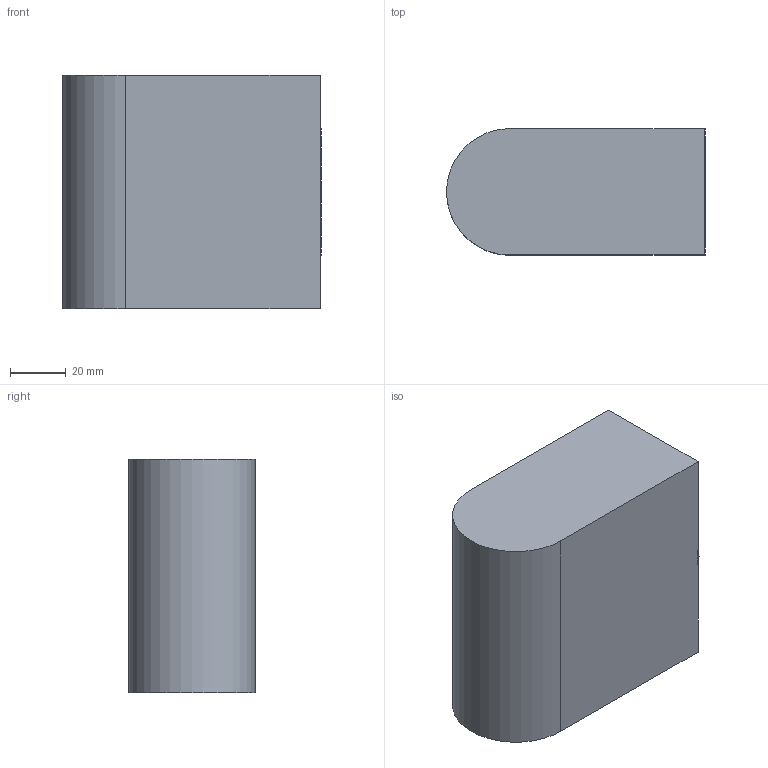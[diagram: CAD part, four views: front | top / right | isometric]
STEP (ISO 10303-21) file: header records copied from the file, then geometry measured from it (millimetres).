
FILE_DESCRIPTION (( 'STEP AP203' ), '1' );
FILE_NAME ('Eslabon4_Default_sldprt.STEP', '2022-03-13T17:40:44', ( '' ), ( '' ), 'SwSTEP 2.0', 'SolidWorks 2020', '' );
FILE_SCHEMA (( 'CONFIG_CONTROL_DESIGN' ));
Length unit declared in the file: millimetre
Products named in the file (1): Eslabon4_Default_sldprt
Bounding box: 93.25 x 45.5 x 84 mm (x, y, z)
Volume: 336643.7 mm3; surface area: 32905 mm2
Topology: 2 solids, 2 shells, 10 faces, 18 edges, 12 vertices
Faces by surface type: plane 7, cylinder 3
Entity records: 323 total; most frequent: DIRECTION 46, CARTESIAN_POINT 41, ORIENTED_EDGE 36, EDGE_CURVE 18, AXIS2_PLACEMENT_3D 17, VERTEX_POINT 12, VECTOR 12, LINE 12
